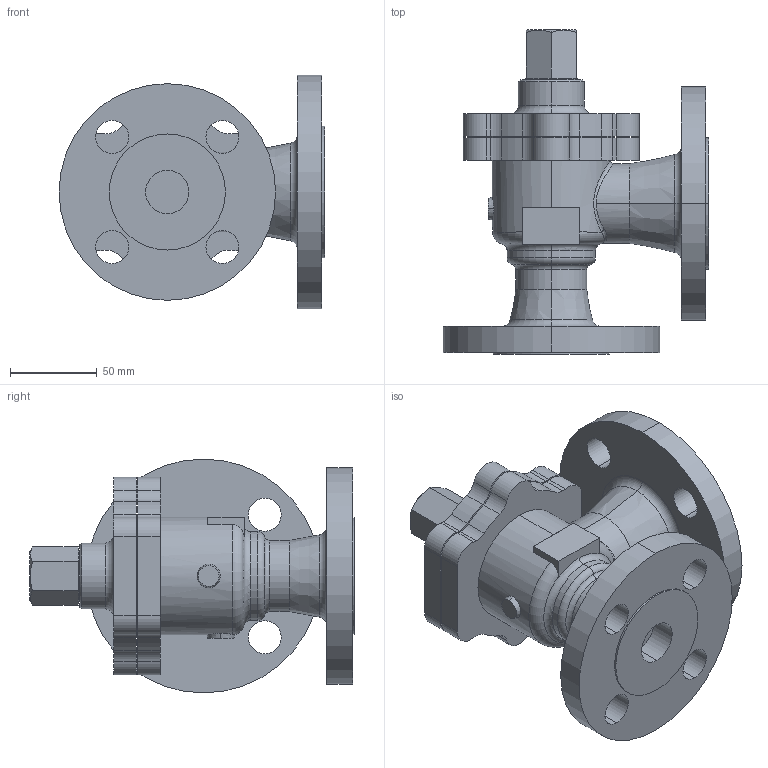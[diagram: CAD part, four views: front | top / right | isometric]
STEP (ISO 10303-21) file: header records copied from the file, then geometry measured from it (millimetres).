
FILE_DESCRIPTION (( 'STEP AP203' ), '1' );
FILE_NAME ('AL-31 25A.STEP', '2026-01-13T07:18:07', ( '' ), ( '' ), 'SwSTEP 2.0', 'SolidWorks 2024', '' );
FILE_SCHEMA (( 'CONFIG_CONTROL_DESIGN' ));
Length unit declared in the file: millimetre
Products named in the file (1): AL-31 25A
Bounding box: 153.5 x 187.3 x 135 mm (x, y, z)
Volume: 946487.6 mm3; surface area: 125788.3 mm2
Topology: 1 solids, 1 shells, 160 faces, 399 edges, 253 vertices
Faces by surface type: cylinder 89, plane 44, torus 13, cone 12, bspline 2
Entity records: 5875 total; most frequent: CARTESIAN_POINT 1796, DIRECTION 921, ORIENTED_EDGE 798, EDGE_CURVE 399, AXIS2_PLACEMENT_3D 387, VERTEX_POINT 253, CIRCLE 228, EDGE_LOOP 188
